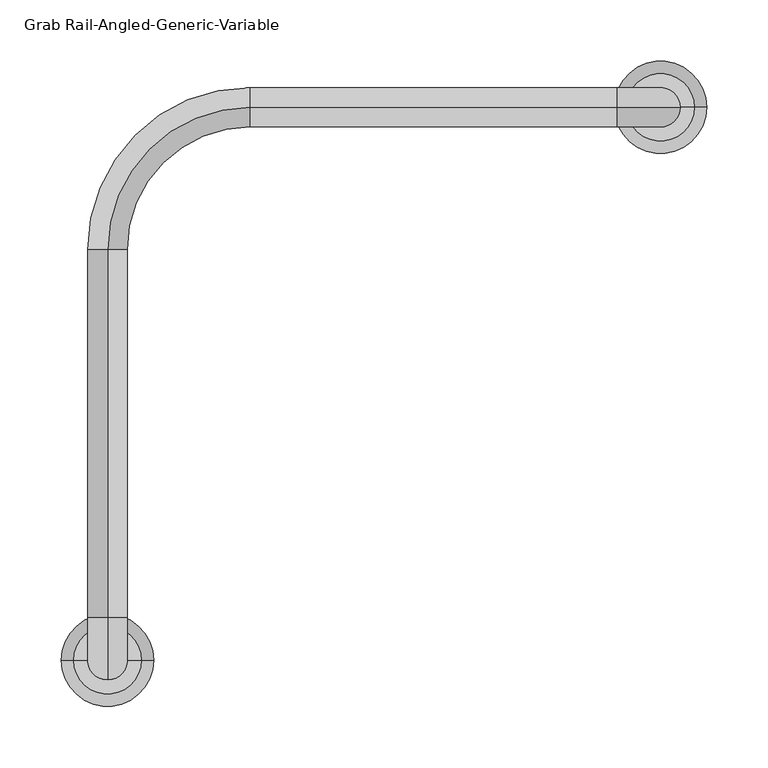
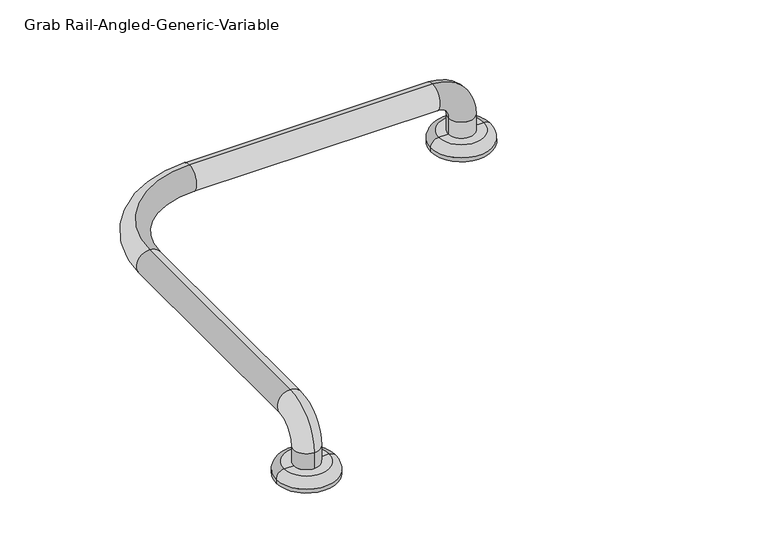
"""IFC4 building model written with IfcOpenShell, lengths in millimetres: proxy geometry, Grab Rail-Angled-Generic-Variable : Ambulant-32Ø 450+450@90°."""

from ifc_helpers import new_model, si_unit, point, frame, origin, place, context, project, spatial, circle_curve, ellipse_curve, trimmed, source, transform, mapped, element, save
from ifc_brep_helpers import plane_surface, cylinder_surface, revolved_surface, advanced_brep


def grab_rail_angled_generic_variable_3e2c0b31(model_context):
    return source(origin(), model_context, "Body", "AdvancedBrep", [
        advanced_brep(
        [(187.5, 0.0, 0.0), (209.0, 0.0, 0.0), (225.0, 0.0, 0.0), (241.0, 0.0, 0.0), (262.5, 0.0, 0.0), (252.5, 0.0, 15.0), (241.0, 0.0, 15.0), (209.0, 0.0, 15.0), (197.5, 0.0, 15.0), (187.5, 0.0, 5.0), (262.5, 0.0, 5.0), (-252.5, -450.0, 15.0), (-241.0, -450.0, 15.0), (-225.0, -434.0, 15.0), (-209.0, -450.0, 15.0), (-197.5, -450.0, 15.0), (-225.0, -466.0, 15.0), (-187.5, -450.0, 5.0), (-262.5, -450.0, 5.0), (-262.5, -450.0, 0.0), (-187.5, -450.0, 0.0), (241.0, 0.0, 36.0), (209.0, 0.0, 36.0), (190.0, 0.0, 55.0), (190.0, 0.0, 87.0), (-109.0, 0.0, 55.0), (-109.0, 0.0, 87.0), (-225.0, -116.0, 55.0), (-225.0, -415.0, 55.0), (-225.0, -415.0, 87.0), (-225.0, -116.0, 87.0), (-225.0, -434.0, 36.0), (-225.0, -466.0, 36.0)],
        [
            (0, 1),
            (1, 2),
            (2, 3),
            (3, 4),
            (4, 0, circle_curve(frame((225.0, 0.0, 0.0), z_axis=(0.0, 0.0, -1.0), x_axis=(1.0, 0.0, 0.0)), 37.5)),
            (0, 4, circle_curve(frame((225.0, 0.0, 0.0), z_axis=(0.0, 0.0, -1.0), x_axis=(1.0, 0.0, 0.0)), 37.5)),
            (5, 6),
            (6, 7, circle_curve(frame((225.0, 0.0, 15.0), z_axis=(0.0, 0.0, -1.0), x_axis=(-1.0, 0.0, 0.0)), 16.0)),
            (7, 8),
            (8, 5, circle_curve(frame((225.0, 0.0, 15.0), z_axis=(0.0, 0.0, 1.0), x_axis=(1.0, 0.0, 0.0)), 27.5)),
            (7, 6, circle_curve(frame((225.0, 0.0, 15.0), z_axis=(0.0, 0.0, -1.0), x_axis=(-1.0, 0.0, 0.0)), 16.0)),
            (5, 8, circle_curve(frame((225.0, 0.0, 15.0), z_axis=(0.0, 0.0, 1.0), x_axis=(1.0, 0.0, 0.0)), 27.5)),
            (8, 9, circle_curve(frame((197.5, 0.0, 5.0), z_axis=(0.0, -1.0, 0.0), x_axis=(1.0, 0.0, 0.0)), 10.0)),
            (9, 10, circle_curve(frame((225.0, 0.0, 5.0), z_axis=(0.0, 0.0, 1.0), x_axis=(1.0, 0.0, 0.0)), 37.5)),
            (10, 5, circle_curve(frame((252.5, 0.0, 5.0), z_axis=(0.0, -1.0, 0.0), x_axis=(-1.0, 0.0, 0.0)), 10.0)),
            (10, 9, circle_curve(frame((225.0, 0.0, 5.0), z_axis=(0.0, 0.0, 1.0), x_axis=(1.0, 0.0, 0.0)), 37.5)),
            (4, 10),
            (9, 0),
            (11, 12),
            (12, 13, circle_curve(frame((-225.0, -450.0, 15.0), z_axis=(0.0, 0.0, -1.0), x_axis=(0.0, 1.0, 0.0)), 16.0)),
            (13, 14, circle_curve(frame((-225.0, -450.0, 15.0), z_axis=(0.0, 0.0, -1.0), x_axis=(0.0, 1.0, 0.0)), 16.0)),
            (14, 15),
            (15, 11, circle_curve(frame((-225.0, -450.0, 15.0), z_axis=(0.0, 0.0, 1.0), x_axis=(-1.0, 0.0, 0.0)), 27.5)),
            (14, 16, circle_curve(frame((-225.0, -450.0, 15.0), z_axis=(0.0, 0.0, -1.0), x_axis=(0.0, 1.0, 0.0)), 16.0)),
            (16, 12, circle_curve(frame((-225.0, -450.0, 15.0), z_axis=(0.0, 0.0, -1.0), x_axis=(0.0, 1.0, 0.0)), 16.0)),
            (11, 15, circle_curve(frame((-225.0, -450.0, 15.0), z_axis=(0.0, 0.0, 1.0), x_axis=(-1.0, 0.0, 0.0)), 27.5)),
            (15, 17, circle_curve(frame((-197.5, -450.0, 5.0), z_axis=(0.0, 1.0, 0.0), x_axis=(1.0, 0.0, 0.0)), 10.0)),
            (17, 18, circle_curve(frame((-225.0, -450.0, 5.0), z_axis=(0.0, 0.0, 1.0), x_axis=(-1.0, 0.0, 0.0)), 37.5)),
            (18, 11, circle_curve(frame((-252.5, -450.0, 5.0), z_axis=(0.0, 1.0, 0.0), x_axis=(-1.0, 0.0, 0.0)), 10.0)),
            (18, 17, circle_curve(frame((-225.0, -450.0, 5.0), z_axis=(0.0, 0.0, 1.0), x_axis=(-1.0, 0.0, 0.0)), 37.5)),
            (19, 18),
            (17, 20),
            (20, 19, circle_curve(frame((-225.0, -450.0, 0.0), z_axis=(0.0, 0.0, 1.0), x_axis=(-1.0, 0.0, 0.0)), 37.5)),
            (19, 20, circle_curve(frame((-225.0, -450.0, 0.0), z_axis=(0.0, 0.0, 1.0), x_axis=(-1.0, 0.0, 0.0)), 37.5)),
            (21, 6),
            (7, 22),
            (22, 21, circle_curve(frame((225.0, 0.0, 36.0), z_axis=(0.0, 0.0, -1.0), x_axis=(-1.0, 0.0, 0.0)), 16.0)),
            (21, 22, circle_curve(frame((225.0, 0.0, 36.0), z_axis=(0.0, 0.0, -1.0), x_axis=(-1.0, 0.0, 0.0)), 16.0)),
            (22, 23, circle_curve(frame((190.0, 0.0, 36.0), z_axis=(0.0, -1.0, 0.0), x_axis=(1.0, 0.0, 0.0)), 19.0)),
            (23, 24, circle_curve(frame((190.0, 0.0, 71.0), z_axis=(1.0, 0.0, 0.0), x_axis=(0.0, 0.0, -1.0)), 16.0)),
            (24, 21, circle_curve(frame((190.0, 0.0, 36.0), z_axis=(0.0, 1.0, 0.0), x_axis=(1.0, 0.0, 0.0)), 51.0)),
            (24, 23, circle_curve(frame((190.0, 0.0, 71.0), z_axis=(1.0, 0.0, 0.0), x_axis=(0.0, 0.0, -1.0)), 16.0)),
            (23, 25),
            (25, 26, circle_curve(frame((-109.0, 0.0, 71.0), z_axis=(1.0, 0.0, 0.0), x_axis=(0.0, 0.0, -1.0)), 16.0)),
            (26, 24),
            (26, 25, circle_curve(frame((-109.0, 0.0, 71.0), z_axis=(1.0, 0.0, 0.0), x_axis=(0.0, 0.0, -1.0)), 16.0)),
            (27, 28),
            (28, 29, circle_curve(frame((-225.0, -415.0, 71.0), z_axis=(0.0, 1.0, 0.0), x_axis=(0.0, 0.0, -1.0)), 16.0)),
            (29, 30),
            (30, 27, circle_curve(frame((-225.0, -116.0, 71.0), z_axis=(0.0, -1.0, 0.0), x_axis=(0.0, 0.0, -1.0)), 16.0)),
            (29, 28, circle_curve(frame((-225.0, -415.0, 71.0), z_axis=(0.0, 1.0, 0.0), x_axis=(0.0, 0.0, -1.0)), 16.0)),
            (27, 30, circle_curve(frame((-225.0, -116.0, 71.0), z_axis=(0.0, -1.0, 0.0), x_axis=(0.0, 0.0, -1.0)), 16.0)),
            (28, 31, circle_curve(frame((-225.0, -415.0, 36.0), z_axis=(1.0, 0.0, 0.0), x_axis=(0.0, 0.0, 1.0)), 19.0)),
            (31, 32, circle_curve(frame((-225.0, -450.0, 36.0), z_axis=(0.0, 0.0, 1.0), x_axis=(0.0, 1.0, 0.0)), 16.0)),
            (32, 29, circle_curve(frame((-225.0, -415.0, 36.0), z_axis=(-1.0, 0.0, 0.0), x_axis=(0.0, 0.0, 1.0)), 51.0)),
            (32, 31, circle_curve(frame((-225.0, -450.0, 36.0), z_axis=(0.0, 0.0, 1.0), x_axis=(0.0, 1.0, 0.0)), 16.0)),
            (31, 13),
            (16, 32),
            (25, 27, circle_curve(frame((-109.0, -116.0, 55.0), z_axis=(0.0, 0.0, 1.0), x_axis=(0.0, 1.0, 0.0)), 116.0)),
            (30, 26, circle_curve(frame((-109.0, -116.0, 87.0), z_axis=(0.0, 0.0, -1.0), x_axis=(0.0, 1.0, 0.0)), 116.0)),
        ],
        [
            plane_surface(frame((225.0, 0.0, 0.0), z_axis=(0.0, 0.0, -1.0), x_axis=(1.0, 0.0, 0.0))),
            plane_surface(frame((225.0, 0.0, 15.0), z_axis=(0.0, 0.0, 1.0), x_axis=(1.0, 0.0, 0.0))),
            revolved_surface(trimmed(ellipse_curve(frame((252.5, 0.0, 5.0), z_axis=(0.0, -1.0, 0.0), x_axis=(-1.0, 0.0, 0.0)), 10.0, 10.0), [point((262.5, 0.0, 5.0))], [point((252.5, 0.0, 15.0))], True, "CARTESIAN"), (225.0, 0.0, 0.0), (0.0, 0.0, 1.0)),
            cylinder_surface(frame((225.0, 0.0, 0.0), z_axis=(0.0, 0.0, 1.0), x_axis=(1.0, 0.0, 0.0)), 37.5),
            plane_surface(frame((-225.0, -450.0, 15.0), z_axis=(0.0, 0.0, 1.0), x_axis=(-1.0, 0.0, 0.0))),
            revolved_surface(trimmed(ellipse_curve(frame((-252.5, -450.0, 5.0), z_axis=(0.0, 1.0, 0.0), x_axis=(-1.0, 0.0, 0.0)), 10.0, 10.0), [point((-262.5, -450.0, 5.0))], [point((-252.5, -450.0, 15.0))], True, "CARTESIAN"), (-225.0, -450.0, 0.0), (0.0, 0.0, 1.0)),
            cylinder_surface(frame((-225.0, -450.0, 0.0), z_axis=(0.0, 0.0, 1.0), x_axis=(-1.0, 0.0, 0.0)), 37.5),
            cylinder_surface(frame((225.0, 0.0, 0.0), z_axis=(0.0, 0.0, -1.0), x_axis=(-1.0, 0.0, 0.0)), 16.0),
            revolved_surface(trimmed(ellipse_curve(frame((225.0, 0.0, 36.0), z_axis=(0.0, 0.0, 1.0), x_axis=(-1.0, 0.0, 0.0)), 16.0, 16.0), [point((241.0, 0.0, 36.0))], [point((209.0, 0.0, 36.0))], True, "CARTESIAN"), (190.0, 0.0, 36.0), (0.0, 1.0, 0.0)),
            revolved_surface(trimmed(ellipse_curve(frame((225.0, 0.0, 36.0), z_axis=(0.0, 0.0, 1.0), x_axis=(-1.0, 0.0, 0.0)), 16.0, 16.0), [point((209.0, 0.0, 36.0))], [point((241.0, 0.0, 36.0))], True, "CARTESIAN"), (190.0, 0.0, 36.0), (0.0, 1.0, 0.0)),
            cylinder_surface(frame((190.0, 0.0, 71.0), z_axis=(1.0, 0.0, 0.0), x_axis=(0.0, 0.0, -1.0)), 16.0),
            cylinder_surface(frame((-225.0, -116.0, 71.0), z_axis=(0.0, 1.0, 0.0), x_axis=(0.0, 0.0, -1.0)), 16.0),
            revolved_surface(trimmed(ellipse_curve(frame((-225.0, -415.0, 71.0), z_axis=(0.0, -1.0, 0.0), x_axis=(0.0, 0.0, -1.0)), 16.0, 16.0), [point((-225.0, -415.0, 87.0))], [point((-225.0, -415.0, 55.0))], True, "CARTESIAN"), (-225.0, -415.0, 36.0), (-1.0, 0.0, 0.0)),
            revolved_surface(trimmed(ellipse_curve(frame((-225.0, -415.0, 71.0), z_axis=(0.0, -1.0, 0.0), x_axis=(0.0, 0.0, -1.0)), 16.0, 16.0), [point((-225.0, -415.0, 55.0))], [point((-225.0, -415.0, 87.0))], True, "CARTESIAN"), (-225.0, -415.0, 36.0), (-1.0, 0.0, 0.0)),
            plane_surface(frame((-225.0, -434.0, 0.0), z_axis=(0.0, 0.0, -1.0), x_axis=(-1.0, 0.0, 0.0))),
            cylinder_surface(frame((-225.0, -450.0, 36.0), z_axis=(0.0, 0.0, 1.0), x_axis=(0.0, 1.0, 0.0)), 16.0),
            revolved_surface(trimmed(ellipse_curve(frame((-109.0, 0.0, 71.0), z_axis=(-1.0, 0.0, 0.0), x_axis=(0.0, 0.0, -1.0)), 16.0, 16.0), [point((-109.0, 0.0, 87.0))], [point((-109.0, 0.0, 55.0))], True, "CARTESIAN"), (-109.0, -116.0, 71.0), (0.0, 0.0, -1.0)),
            revolved_surface(trimmed(ellipse_curve(frame((-109.0, 0.0, 71.0), z_axis=(-1.0, 0.0, 0.0), x_axis=(0.0, 0.0, -1.0)), 16.0, 16.0), [point((-109.0, 0.0, 55.0))], [point((-109.0, 0.0, 87.0))], True, "CARTESIAN"), (-109.0, -116.0, 71.0), (0.0, 0.0, -1.0)),
        ],
        [
            (0, [[1, 2, 3, 4, 5]]),
            (0, [[-4, -3, -2, -1, 6]]),
            (1, [[7, 8, 9, 10]]),
            (1, [[-9, 11, -7, 12]]),
            (2, [[13, 14, 15, -10]]),
            (2, [[-15, 16, -13, -12]]),
            (3, [[17, -14, 18, -5]]),
            (3, [[-18, -16, -17, -6]]),
            (4, [[19, 20, 21, 22, 23]]),
            (4, [[-22, 24, 25, -19, 26]]),
            (5, [[27, 28, 29, -23]]),
            (5, [[-29, 30, -27, -26]]),
            (6, [[31, -28, 32, 33]]),
            (6, [[-32, -30, -31, 34]]),
            (7, [[35, -11, 36, 37]]),
            (7, [[-36, -8, -35, 38]]),
            (8, [[39, 40, 41, -37]]),
            (9, [[-41, 42, -39, -38]]),
            (10, [[43, 44, 45, -40]]),
            (10, [[-45, 46, -43, -42]]),
            (11, [[47, 48, 49, 50]]),
            (11, [[51, -47, 52, -49]]),
            (12, [[53, 54, 55, -48]]),
            (13, [[-55, 56, -53, -51]]),
            (14, [[-34, -33]]),
            (15, [[57, -20, -25, 58, -54]]),
            (15, [[-58, -24, -21, -57, -56]]),
            (16, [[59, -50, 60, -44]]),
            (17, [[-60, -52, -59, -46]]),
        ],
    ),
    ])


if __name__ == "__main__":
    model = new_model("IFC4")
    model_context = context("Model", 3, world=origin())
    ifc_project = project(units=[si_unit("LENGTHUNIT", "METRE", prefix="MILLI")], contexts=[model_context])
    site = spatial("IfcSite", under=ifc_project)
    building = spatial("IfcBuilding", under=site)
    placement = place(None, origin())
    grab_rail_angled_generic_variable_shape = grab_rail_angled_generic_variable_3e2c0b31(model_context)
    element("IfcBuildingElementProxy", 1, Name="Grab Rail-Angled-Generic-Variable : Ambulant-32Ø 450+450@90°", ObjectType="Grab Rail-Angled-Generic-Variable : Ambulant-32Ø 450+450@90°", at=placement, inside=building, context=model_context, shape_type="MappedRepresentation", body=[
        mapped(grab_rail_angled_generic_variable_shape, transform((0.0, 0.0, 0.0), x_axis=(1.0, 0.0, 0.0), y_axis=(0.0, 1.0, 0.0), z_axis=(0.0, 0.0, 1.0))),
    ])
    save(model, "model.ifc")
